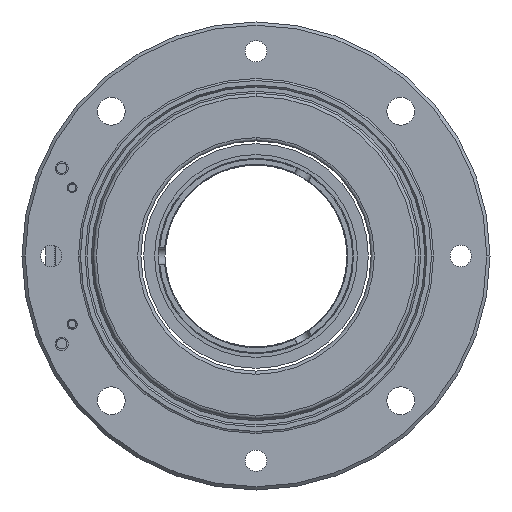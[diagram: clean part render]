
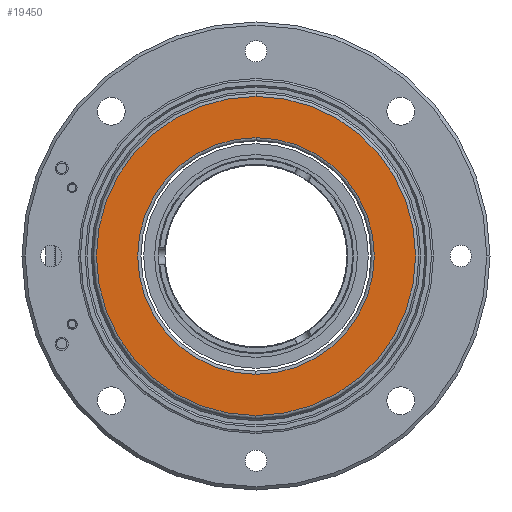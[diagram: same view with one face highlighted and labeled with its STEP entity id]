
A CAD part, left-side view. The second image highlights one B-rep face of the part: STEP entity #19450.
In plain terms, the highlighted planar face has unit normal (-1, 0, 0).
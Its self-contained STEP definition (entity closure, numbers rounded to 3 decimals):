
#18657=CARTESIAN_POINT('',(0.,0.,0.));
#18658=DIRECTION('',(-1.,0.,0.));
#18659=DIRECTION('',(0.,1.,0.));
#18660=AXIS2_PLACEMENT_3D('',#18657,#18658,#18659);
#18665=CARTESIAN_POINT('',(0.,0.,0.));
#18666=DIRECTION('',(-1.,0.,0.));
#18667=DIRECTION('',(0.,-1.,0.));
#18668=AXIS2_PLACEMENT_3D('',#18665,#18666,#18667);
#18673=CARTESIAN_POINT('',(0.,0.,0.));
#18674=DIRECTION('',(-1.,0.,0.));
#18675=DIRECTION('',(0.,-1.,0.));
#18676=AXIS2_PLACEMENT_3D('',#18673,#18674,#18675);
#18681=CARTESIAN_POINT('',(0.,0.,0.));
#18682=DIRECTION('',(-1.,0.,0.));
#18683=DIRECTION('',(0.,1.,0.));
#18684=AXIS2_PLACEMENT_3D('',#18681,#18682,#18683);
#18991=CARTESIAN_POINT('',(0.,24.55,0.));
#18992=CARTESIAN_POINT('',(0.,-24.55,0.));
#18993=VERTEX_POINT('',#18991);
#18994=VERTEX_POINT('',#18992);
#19003=CARTESIAN_POINT('',(0.,-18.2,0.));
#19004=CARTESIAN_POINT('',(0.,18.2,0.));
#19005=VERTEX_POINT('',#19003);
#19006=VERTEX_POINT('',#19004);
#19434=CARTESIAN_POINT('',(0.,0.,0.));
#19435=DIRECTION('',(1.,0.,0.));
#19436=DIRECTION('',(0.,-1.,0.));
#19437=AXIS2_PLACEMENT_3D('',#19434,#19435,#19436);
#19438=PLANE('',#19437);
#19439=ORIENTED_EDGE('',*,*,#19417,.F.);
#19441=ORIENTED_EDGE('',*,*,#19440,.F.);
#19442=EDGE_LOOP('',(#19439,#19441));
#19443=FACE_OUTER_BOUND('',#19442,.F.);
#19445=ORIENTED_EDGE('',*,*,#19444,.T.);
#19447=ORIENTED_EDGE('',*,*,#19446,.T.);
#19448=EDGE_LOOP('',(#19445,#19447));
#19449=FACE_BOUND('',#19448,.F.);
#19450=ADVANCED_FACE('',(#19443,#19449),#19438,.F.);
#18661=CIRCLE('',#18660,24.55);
#18669=CIRCLE('',#18668,24.55);
#18677=CIRCLE('',#18676,18.2);
#18685=CIRCLE('',#18684,18.2);
#19417=EDGE_CURVE('',#18993,#18994,#18661,.T.);
#19440=EDGE_CURVE('',#18994,#18993,#18669,.T.);
#19444=EDGE_CURVE('',#19005,#19006,#18677,.T.);
#19446=EDGE_CURVE('',#19006,#19005,#18685,.T.);
